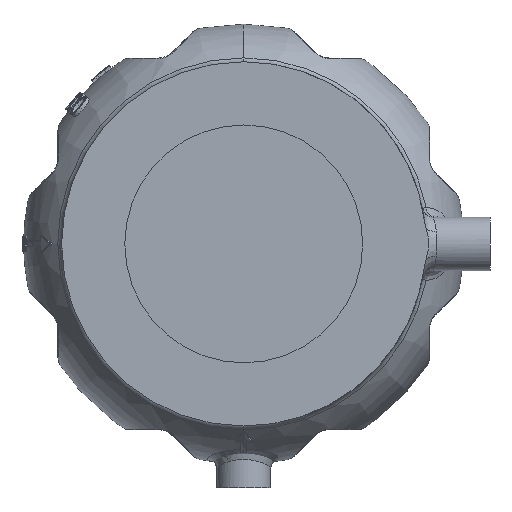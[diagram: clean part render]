
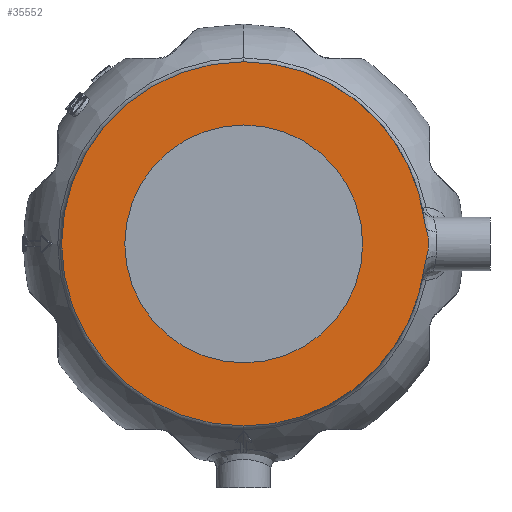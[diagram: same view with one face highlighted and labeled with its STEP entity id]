
A CAD part, front view. The second image highlights one B-rep face of the part: STEP entity #35552.
In plain terms, the highlighted planar face has unit normal (0, -1, 0).
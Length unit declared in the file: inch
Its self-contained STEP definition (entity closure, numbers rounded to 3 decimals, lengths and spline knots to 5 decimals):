
#1578 = CARTESIAN_POINT ( 'NONE',  ( 3.08778, -2.1025, 0.17097 ) ) ;
#2753 = CARTESIAN_POINT ( 'NONE',  ( 3.06612, -2.1025, -0.25468 ) ) ;
#4577 = CARTESIAN_POINT ( 'NONE',  ( 3.06612, -2.1025, -0.25468 ) ) ;
#5015 = CARTESIAN_POINT ( 'NONE',  ( 3.07224, -2.1025, 0.23392 ) ) ;
#5119 = VERTEX_POINT ( 'NONE', #41423 ) ;
#7657 = CIRCLE ( 'NONE', #38557, 3.0625 ) ;
#8002 = VERTEX_POINT ( 'NONE', #29042 ) ;
#8033 = DIRECTION ( 'NONE',  ( 0., 0., -1. ) ) ;
#8188 = CARTESIAN_POINT ( 'NONE',  ( 3.06612, -2.1025, 0.25468 ) ) ;
#8340 = CARTESIAN_POINT ( 'NONE',  ( 3.08778, -2.1025, -0.17098 ) ) ;
#8969 = DIRECTION ( 'NONE',  ( 0., 1., 0. ) ) ;
#8991 = CIRCLE ( 'NONE', #23423, 3.0625 ) ;
#9991 = CARTESIAN_POINT ( 'NONE',  ( 0., -2.1025, 0. ) ) ;
#9995 = EDGE_CURVE ( 'NONE', #29559, #30909, #7657, .T. ) ;
#10239 = CIRCLE ( 'NONE', #33996, 3.0625 ) ;
#10336 = EDGE_CURVE ( 'NONE', #5119, #30909, #44431, .T. ) ;
#10379 = EDGE_CURVE ( 'NONE', #23365, #5119, #36384, .T. ) ;
#11219 = CARTESIAN_POINT ( 'NONE',  ( 3.03938, -2.1025, 0.37563 ) ) ;
#11636 = CARTESIAN_POINT ( 'NONE',  ( 3.04446, -2.1025, 0.33446 ) ) ;
#11784 = CARTESIAN_POINT ( 'NONE',  ( 3.09988, -2.1025, -0.10746 ) ) ;
#12414 = EDGE_CURVE ( 'NONE', #38651, #29559, #10239, .T. ) ;
#12948 = FACE_BOUND ( 'NONE', #13205, .T. ) ;
#13205 = EDGE_LOOP ( 'NONE', ( #28954, #41831 ) ) ;
#13454 = DIRECTION ( 'NONE',  ( 0., 0., -1. ) ) ;
#13688 = VERTEX_POINT ( 'NONE', #37645 ) ;
#14436 = CARTESIAN_POINT ( 'NONE',  ( 3.05442, -2.1025, -0.29438 ) ) ;
#15224 = B_SPLINE_CURVE_WITH_KNOTS ( 'NONE', 3,
 ( #24676, #38389, #14436, #38535 ),
 .UNSPECIFIED., .F., .F.,
 ( 4, 4 ),
 ( 0., 0.00315 ),
 .UNSPECIFIED. ) ;
#15268 = CARTESIAN_POINT ( 'NONE',  ( 3.10734, -2.1025, -0.04312 ) ) ;
#15673 = DIRECTION ( 'NONE',  ( 0., 1., 0. ) ) ;
#17914 = CARTESIAN_POINT ( 'NONE',  ( 0., -2.1025, 0. ) ) ;
#17953 = CARTESIAN_POINT ( 'NONE',  ( -3.25, -2.1025, 0. ) ) ;
#17982 = EDGE_CURVE ( 'NONE', #8002, #38651, #8991, .T. ) ;
#18303 = ORIENTED_EDGE ( 'NONE', *, *, #10336, .T. ) ;
#18699 = DIRECTION ( 'NONE',  ( 0., 1., 0. ) ) ;
#18732 = CARTESIAN_POINT ( 'NONE',  ( 3.10848, -2.1025, 0.04371 ) ) ;
#18991 = ORIENTED_EDGE ( 'NONE', *, *, #9995, .F. ) ;
#20264 = CARTESIAN_POINT ( 'NONE',  ( 2., -2.1025, 0. ) ) ;
#21377 = DIRECTION ( 'NONE',  ( 0., 0., -1. ) ) ;
#22108 = AXIS2_PLACEMENT_3D ( 'NONE', #39347, #18699, #42812 ) ;
#22182 = CARTESIAN_POINT ( 'NONE',  ( 3.09226, -2.1025, 0.1499 ) ) ;
#23149 = ORIENTED_EDGE ( 'NONE', *, *, #12414, .F. ) ;
#23177 = FACE_OUTER_BOUND ( 'NONE', #37335, .T. ) ;
#23365 = VERTEX_POINT ( 'NONE', #2753 ) ;
#23423 = AXIS2_PLACEMENT_3D ( 'NONE', #29597, #8969, #33065 ) ;
#24676 = CARTESIAN_POINT ( 'NONE',  ( 3.03938, -2.1025, -0.37563 ) ) ;
#25657 = CARTESIAN_POINT ( 'NONE',  ( 3.07778, -2.1025, 0.21297 ) ) ;
#25944 = CARTESIAN_POINT ( 'NONE',  ( 0., -2.1025, -3.0625 ) ) ;
#28658 = DIRECTION ( 'NONE',  ( 0., -1., 0. ) ) ;
#28822 = CARTESIAN_POINT ( 'NONE',  ( 3.05442, -2.1025, 0.29438 ) ) ;
#28954 = ORIENTED_EDGE ( 'NONE', *, *, #40755, .T. ) ;
#28965 = CARTESIAN_POINT ( 'NONE',  ( 3.07777, -2.1025, -0.21297 ) ) ;
#29042 = CARTESIAN_POINT ( 'NONE',  ( 3.03938, -2.1025, -0.37563 ) ) ;
#29114 = CARTESIAN_POINT ( 'NONE',  ( 3.06612, -2.1025, 0.25468 ) ) ;
#29559 = VERTEX_POINT ( 'NONE', #36993 ) ;
#29597 = CARTESIAN_POINT ( 'NONE',  ( 0., -2.1025, 0. ) ) ;
#30909 = VERTEX_POINT ( 'NONE', #11219 ) ;
#31993 = ORIENTED_EDGE ( 'NONE', *, *, #17982, .F. ) ;
#32431 = CARTESIAN_POINT ( 'NONE',  ( 3.09226, -2.1025, -0.14989 ) ) ;
#33065 = DIRECTION ( 'NONE',  ( 0., 0., -1. ) ) ;
#33202 = ORIENTED_EDGE ( 'NONE', *, *, #10379, .T. ) ;
#33270 = AXIS2_PLACEMENT_3D ( 'NONE', #36300, #15673, #39793 ) ;
#33996 = AXIS2_PLACEMENT_3D ( 'NONE', #17914, #42029, #21377 ) ;
#34089 = DIRECTION ( 'NONE',  ( 0., 1., 0. ) ) ;
#35096 = CIRCLE ( 'NONE', #33270, 2. ) ;
#35552 = ADVANCED_FACE ( 'NONE', ( #23177, #12948 ), #42367, .T. ) ;
#35705 = ORIENTED_EDGE ( 'NONE', *, *, #42547, .T. ) ;
#35741 = CARTESIAN_POINT ( 'NONE',  ( 3.03938, -2.1025, 0.37563 ) ) ;
#35889 = CARTESIAN_POINT ( 'NONE',  ( 3.10301, -2.1025, -0.08613 ) ) ;
#36300 = CARTESIAN_POINT ( 'NONE',  ( 0., -2.1025, 0. ) ) ;
#36381 = EDGE_CURVE ( 'NONE', #42867, #13688, #35096, .T. ) ;
#36384 = B_SPLINE_CURVE_WITH_KNOTS ( 'NONE', 3,
 ( #4577, #39223, #28965, #8340, #32431, #11784, #35889, #15268, #39377, #18732, #42848, #22182, #1578, #25657, #5015, #29114 ),
 .UNSPECIFIED., .F., .F.,
 ( 4, 2, 2, 2, 2, 2, 2, 4 ),
 ( 0., 0.00164, 0.00328, 0.00493, 0.00657, 0.00985, 0.0115, 0.01314 ),
 .UNSPECIFIED. ) ;
#36993 = CARTESIAN_POINT ( 'NONE',  ( 0., -2.1025, 3.0625 ) ) ;
#37289 = AXIS2_PLACEMENT_3D ( 'NONE', #17953, #28658, #8033 ) ;
#37335 = EDGE_LOOP ( 'NONE', ( #18303, #18991, #23149, #31993, #35705, #33202 ) ) ;
#37645 = CARTESIAN_POINT ( 'NONE',  ( -2., -2.1025, 0. ) ) ;
#38389 = CARTESIAN_POINT ( 'NONE',  ( 3.04446, -2.1025, -0.33446 ) ) ;
#38535 = CARTESIAN_POINT ( 'NONE',  ( 3.06612, -2.1025, -0.25468 ) ) ;
#38557 = AXIS2_PLACEMENT_3D ( 'NONE', #9991, #34089, #13454 ) ;
#38651 = VERTEX_POINT ( 'NONE', #25944 ) ;
#39223 = CARTESIAN_POINT ( 'NONE',  ( 3.07225, -2.1025, -0.23388 ) ) ;
#39347 = CARTESIAN_POINT ( 'NONE',  ( 0., -2.1025, 0. ) ) ;
#39377 = CARTESIAN_POINT ( 'NONE',  ( 3.10852, -2.1025, -0.02131 ) ) ;
#39777 = CIRCLE ( 'NONE', #22108, 2. ) ;
#39793 = DIRECTION ( 'NONE',  ( 0., 0., -1. ) ) ;
#40755 = EDGE_CURVE ( 'NONE', #13688, #42867, #39777, .T. ) ;
#41423 = CARTESIAN_POINT ( 'NONE',  ( 3.06612, -2.1025, 0.25468 ) ) ;
#41831 = ORIENTED_EDGE ( 'NONE', *, *, #36381, .T. ) ;
#42029 = DIRECTION ( 'NONE',  ( 0., 1., 0. ) ) ;
#42367 = PLANE ( 'NONE',  #37289 ) ;
#42547 = EDGE_CURVE ( 'NONE', #8002, #23365, #15224, .T. ) ;
#42812 = DIRECTION ( 'NONE',  ( 0., 0., -1. ) ) ;
#42848 = CARTESIAN_POINT ( 'NONE',  ( 3.10366, -2.1025, 0.08641 ) ) ;
#42867 = VERTEX_POINT ( 'NONE', #20264 ) ;
#44431 = B_SPLINE_CURVE_WITH_KNOTS ( 'NONE', 3,
 ( #8188, #28822, #11636, #35741 ),
 .UNSPECIFIED., .F., .F.,
 ( 4, 4 ),
 ( 0., 0.00315 ),
 .UNSPECIFIED. ) ;
